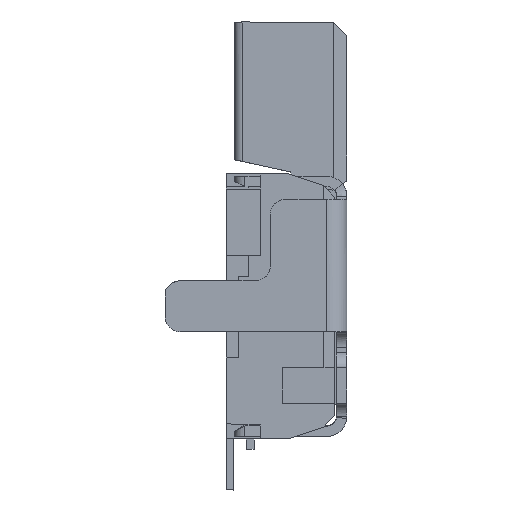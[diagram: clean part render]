
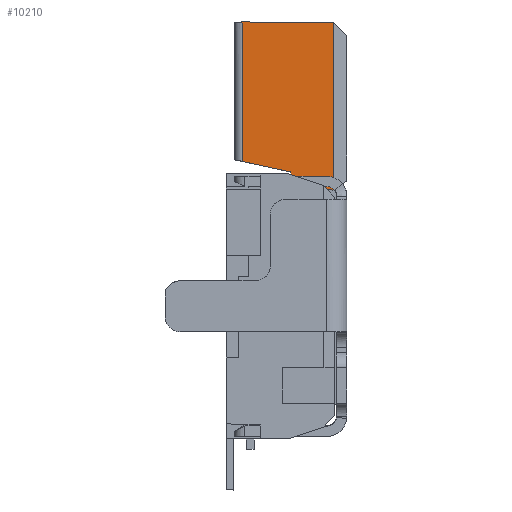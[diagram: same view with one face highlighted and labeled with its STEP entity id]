
A CAD part, left-side view. The second image highlights one B-rep face of the part: STEP entity #10210.
In plain terms, the highlighted planar face has unit normal (-1, 0, 0).
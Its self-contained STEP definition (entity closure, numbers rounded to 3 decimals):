
#14 = VERTEX_POINT ( 'NONE', #13065 ) ;
#48 = VERTEX_POINT ( 'NONE', #13031 ) ;
#66 = VERTEX_POINT ( 'NONE', #13013 ) ;
#71 = VERTEX_POINT ( 'NONE', #13008 ) ;
#1178 = VECTOR ( 'NONE', #7799, 1000. ) ;
#1184 = LINE ( 'NONE', #7805, #1178 ) ;
#1515 = LINE ( 'NONE', #14693, #1519 ) ;
#1519 = VECTOR ( 'NONE', #14695, 1000. ) ;
#1600 = LINE ( 'NONE', #14557, #1606 ) ;
#1606 = VECTOR ( 'NONE', #14562, 1000. ) ;
#1611 = LINE ( 'NONE', #14528, #1619 ) ;
#1619 = VECTOR ( 'NONE', #14527, 1000. ) ;
#2049 = FACE_OUTER_BOUND ( 'NONE', #17650, .T. ) ;
#2074 = EDGE_CURVE ( 'NONE', #14, #14476, #1184, .T. ) ;
#5404 = LINE ( 'NONE', #5922, #5408 ) ;
#5408 = VECTOR ( 'NONE', #5923, 1000. ) ;
#5425 = LINE ( 'NONE', #5934, #5427 ) ;
#5427 = VECTOR ( 'NONE', #5939, 1000. ) ;
#5922 = CARTESIAN_POINT ( 'NONE',  ( -0.75, 1.1, -2.592 ) ) ;
#5923 = DIRECTION ( 'NONE',  ( 0., -1., 0. ) ) ;
#5934 = CARTESIAN_POINT ( 'NONE',  ( -0.75, 1.1, -0.882 ) ) ;
#5939 = DIRECTION ( 'NONE',  ( 0., -1., 0. ) ) ;
#7479 = LINE ( 'NONE', #9396, #7482 ) ;
#7482 = VECTOR ( 'NONE', #9398, 1000. ) ;
#7799 = DIRECTION ( 'NONE',  ( 0., 0., -1. ) ) ;
#7805 = CARTESIAN_POINT ( 'NONE',  ( -0.75, 0.55, -0.882 ) ) ;
#9361 = CARTESIAN_POINT ( 'NONE',  ( -0.75, 1.025, -0.882 ) ) ;
#9396 = CARTESIAN_POINT ( 'NONE',  ( -0.75, 1.025, -0.882 ) ) ;
#9398 = DIRECTION ( 'NONE',  ( 0., 0., 1. ) ) ;
#9698 = CARTESIAN_POINT ( 'NONE',  ( -0.75, 0.55, -2.592 ) ) ;
#9699 = CARTESIAN_POINT ( 'NONE',  ( -0.75, 0.13, -2.542 ) ) ;
#9859 = EDGE_CURVE ( 'NONE', #15150, #71, #1515, .T. ) ;
#9910 = EDGE_CURVE ( 'NONE', #48, #15150, #1600, .T. ) ;
#9978 = EDGE_CURVE ( 'NONE', #66, #14, #1611, .T. ) ;
#10210 = ADVANCED_FACE ( 'NONE', ( #2049 ), #16895, .T. ) ;
#10668 = EDGE_CURVE ( 'NONE', #14476, #48, #5404, .T. ) ;
#10678 = EDGE_CURVE ( 'NONE', #11691, #71, #5425, .T. ) ;
#11359 = AXIS2_PLACEMENT_3D ( 'NONE', #16903, #16904, #16905 ) ;
#11691 = VERTEX_POINT ( 'NONE', #9361 ) ;
#12227 = EDGE_CURVE ( 'NONE', #66, #11691, #7479, .T. ) ;
#13008 = CARTESIAN_POINT ( 'NONE',  ( -0.75, 0.13, -0.882 ) ) ;
#13013 = CARTESIAN_POINT ( 'NONE',  ( -0.75, 1.025, -2.249 ) ) ;
#13031 = CARTESIAN_POINT ( 'NONE',  ( -0.75, 0.13, -2.592 ) ) ;
#13065 = CARTESIAN_POINT ( 'NONE',  ( -0.75, 0.55, -2.352 ) ) ;
#14476 = VERTEX_POINT ( 'NONE', #9698 ) ;
#14527 = DIRECTION ( 'NONE',  ( 0., -0.977, -0.213 ) ) ;
#14528 = CARTESIAN_POINT ( 'NONE',  ( -0.75, 1.025, -2.249 ) ) ;
#14557 = CARTESIAN_POINT ( 'NONE',  ( -0.75, 0.13, -0.882 ) ) ;
#14562 = DIRECTION ( 'NONE',  ( 0., 0., 1. ) ) ;
#14693 = CARTESIAN_POINT ( 'NONE',  ( -0.75, 0.13, -2.542 ) ) ;
#14695 = DIRECTION ( 'NONE',  ( 0., 0., 1. ) ) ;
#15150 = VERTEX_POINT ( 'NONE', #9699 ) ;
#15659 = ORIENTED_EDGE ( 'NONE', *, *, #9910, .T. ) ;
#15660 = ORIENTED_EDGE ( 'NONE', *, *, #9859, .T. ) ;
#15661 = ORIENTED_EDGE ( 'NONE', *, *, #10678, .F. ) ;
#15662 = ORIENTED_EDGE ( 'NONE', *, *, #12227, .F. ) ;
#15663 = ORIENTED_EDGE ( 'NONE', *, *, #9978, .T. ) ;
#15664 = ORIENTED_EDGE ( 'NONE', *, *, #2074, .T. ) ;
#15665 = ORIENTED_EDGE ( 'NONE', *, *, #10668, .T. ) ;
#16895 = PLANE ( 'NONE',  #11359 ) ;
#16903 = CARTESIAN_POINT ( 'NONE',  ( -0.75, 1.1, -0.882 ) ) ;
#16904 = DIRECTION ( 'NONE',  ( -1., 0., 0. ) ) ;
#16905 = DIRECTION ( 'NONE',  ( 0., 0., 1. ) ) ;
#17650 = EDGE_LOOP ( 'NONE', ( #15659, #15660, #15661, #15662, #15663, #15664, #15665 ) ) ;
